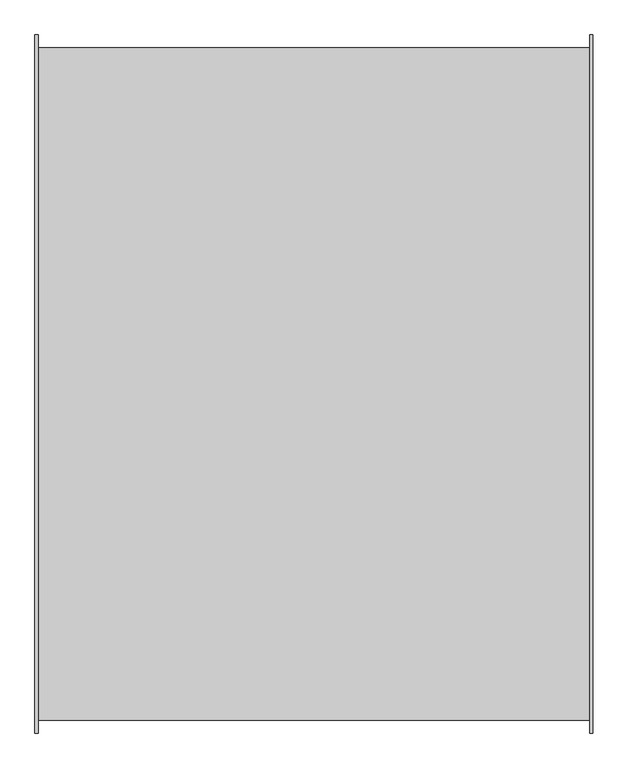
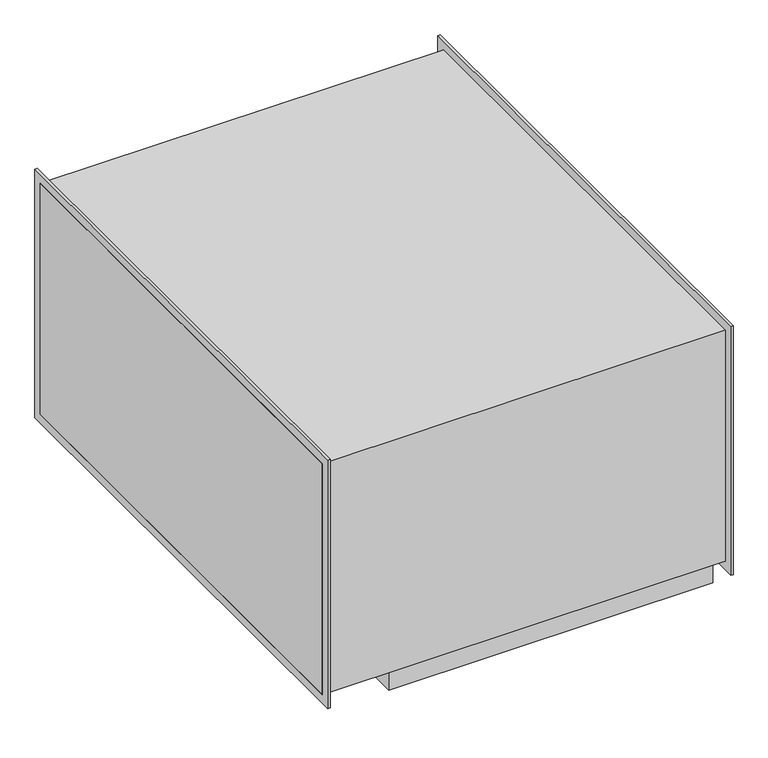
"""IFC4 building model written with IfcOpenShell, lengths in millimetres: unitary equipment geometry, VE-Wentylator-ParaForma-Harmann-DRB_EC-Nawiewny : 100/50/12400TEC."""

from ifc_helpers import new_model, si_unit, point, frame, frame_2d, origin, place, context, project, spatial, polyline, circle_curve, trimmed, segment, composite_curve, outline, extrude, faceted_brep, source, transform, mapped, element, save
from ifc_brep_helpers import plane_surface, revolved_surface, advanced_brep


def unitary_equipment_f13bc2cc(model_context):
    return source(origin(), model_context, "Body", "SolidModel", [
        faceted_brep([(-277.4, -497.0, -290.4), (-277.4, -497.0, -250.0), (-277.4, 497.0, -250.0), (-277.4, 497.0, -290.4), (386.6, -497.0, -290.4), (386.6, 497.0, -290.4), (386.6, 497.0, -250.0), (386.6, -497.0, -250.0), (-272.4, 492.0, -290.4), (-272.4, -492.0, -290.4), (381.6, -492.0, -290.4), (381.6, 492.0, -290.4), (-272.4, 492.0, -250.0), (-272.4, -492.0, -250.0), (381.6, -492.0, -250.0), (381.6, 492.0, -250.0), (-415.0, -500.0, 250.0), (-415.0, -500.0, -250.0), (415.0, -500.0, -250.0), (415.0, -500.0, 250.0), (-415.0, 500.0, 250.0), (415.0, 500.0, 250.0), (-415.0, 500.0, -250.0), (415.0, 500.0, -250.0)], [[[0, 1, 2, 3]], [[4, 5, 6, 7]], [[1, 0, 4, 7]], [[3, 2, 6, 5]], [[0, 3, 5, 4], [8, 9, 10, 11]], [[8, 12, 13, 9]], [[10, 14, 15, 11]], [[9, 13, 14, 10]], [[12, 8, 11, 15]], [[16, 17, 18, 19]], [[20, 16, 19, 21]], [[22, 20, 21, 23]], [[13, 12, 15, 14]], [[18, 17, 22, 23], [2, 1, 7, 6]], [[17, 16, 20, 22]], [[18, 23, 21, 19]]]),
        extrude(outline(polyline([(-519.2, -269.2), (-519.2, 269.2), (519.2, 269.2), (519.2, -269.2), (-519.2, -269.2)]), holes=[polyline([(-500.0, -250.0), (500.0, -250.0), (500.0, 250.0), (-500.0, 250.0), (-500.0, -250.0)])]), frame((410.0, 0.0, 0.0), z_axis=(1.0, 0.0, 0.0), x_axis=(0.0, 1.0, 0.0)), (0.0, 0.0, 1.0), 5.0),
        extrude(outline(polyline([(-519.2, -269.2), (-519.2, 269.2), (519.2, 269.2), (519.2, -269.2), (-519.2, -269.2)]), holes=[polyline([(-500.0, -250.0), (500.0, -250.0), (500.0, 250.0), (-500.0, 250.0), (-500.0, -250.0)])]), frame((-415.0, 0.0, 0.0), z_axis=(1.0, 0.0, 0.0), x_axis=(0.0, 1.0, 0.0)), (0.0, 0.0, 1.0), 5.0),
        extrude(outline(composite_curve([segment(polyline([(77.5, 377.3), (-22.5, 377.3)]), True, "CONTINUOUS"), segment(trimmed(circle_curve(frame_2d((-22.5, 382.3)), 5.0), [point((-22.5, 377.3))], [point((-27.5, 382.3))], False, "CARTESIAN"), True, "CONTINUOUS"), segment(polyline([(-27.5, 382.3), (-27.5, 467.3)]), True, "CONTINUOUS"), segment(trimmed(circle_curve(frame_2d((-22.5, 467.3)), 5.0), [point((-27.5, 467.3))], [point((-22.5, 472.3))], False, "CARTESIAN"), True, "CONTINUOUS"), segment(polyline([(-22.5, 472.3), (77.5, 472.3)]), True, "CONTINUOUS"), segment(trimmed(circle_curve(frame_2d((77.5, 467.3)), 5.0), [point((77.5, 472.3))], [point((82.5, 467.3))], False, "CARTESIAN"), True, "CONTINUOUS"), segment(polyline([(82.5, 467.3), (82.5, 382.3)]), True, "CONTINUOUS"), segment(trimmed(circle_curve(frame_2d((77.5, 382.3)), 5.0), [point((82.5, 382.3))], [point((77.5, 377.3))], False, "CARTESIAN"), True, "CONTINUOUS")], self_intersect=False)), frame((0.0, 0.0, -299.5), z_axis=(0.0, 0.0, 1.0), x_axis=(1.0, 0.0, 0.0)), (0.0, 0.0, 1.0), 49.5),
        advanced_brep(
        [(27.5, -208.0, -265.0), (27.5, 25.0, -265.0), (27.5, -228.0, -250.0), (27.5, 45.0, -250.0)],
        [
            (0, 1, circle_curve(frame((27.5, -91.5, -265.0), z_axis=(0.0, 0.0, -1.0), x_axis=(0.0, -1.0, 0.0)), 116.5)),
            (1, 0, circle_curve(frame((27.5, -91.5, -265.0), z_axis=(0.0, 0.0, -1.0), x_axis=(0.0, 1.0, 0.0)), 116.5)),
            (2, 3, circle_curve(frame((27.5, -91.5, -250.0), z_axis=(0.0, 0.0, 1.0), x_axis=(0.0, 1.0, 0.0)), 136.5)),
            (3, 2, circle_curve(frame((27.5, -91.5, -250.0), z_axis=(0.0, 0.0, 1.0), x_axis=(0.0, -1.0, 0.0)), 136.5)),
            (3, 1),
            (0, 2),
        ],
        [
            plane_surface(frame((27.5, -91.5, -265.0), z_axis=(0.0, 0.0, -1.0), x_axis=(-1.0, 0.0, 0.0))),
            plane_surface(frame((27.5, -91.5, -250.0), z_axis=(0.0, 0.0, 1.0), x_axis=(-1.0, 0.0, 0.0))),
            revolved_surface(polyline([(27.5, -208.0, -265.0), (27.5, -228.0, -250.0)]), (27.5, -91.5, -352.375), (0.0, 0.0, 1.0)),
            revolved_surface(polyline([(27.5, 25.0, -265.0), (27.5, 45.0, -250.0)]), (27.5, -91.5, -352.375), (0.0, 0.0, 1.0)),
        ],
        [
            (0, [[1, 2]]),
            (1, [[3, 4]]),
            (2, [[-4, 5, -1, 6]]),
            (3, [[-3, -6, -2, -5]]),
        ],
    ),
    ])


if __name__ == "__main__":
    model = new_model("IFC4")
    model_context = context("Model", 3, world=origin())
    ifc_project = project(units=[si_unit("LENGTHUNIT", "METRE", prefix="MILLI")], contexts=[model_context])
    site = spatial("IfcSite", under=ifc_project)
    building = spatial("IfcBuilding", under=site)
    placement = place(None, origin())
    unitary_equipment_shape = unitary_equipment_f13bc2cc(model_context)
    element("IfcUnitaryEquipment", 1, ObjectType="VE-Wentylator-ParaForma-Harmann-DRB_EC-Nawiewny : 100/50/12400TEC", at=placement, inside=building, context=model_context, shape_type="MappedRepresentation", body=[
        mapped(unitary_equipment_shape, transform((0.0, 0.0, 0.0), x_axis=(1.0, 0.0, 0.0), y_axis=(0.0, 1.0, 0.0), z_axis=(0.0, 0.0, 1.0))),
    ])
    save(model, "model.ifc")
